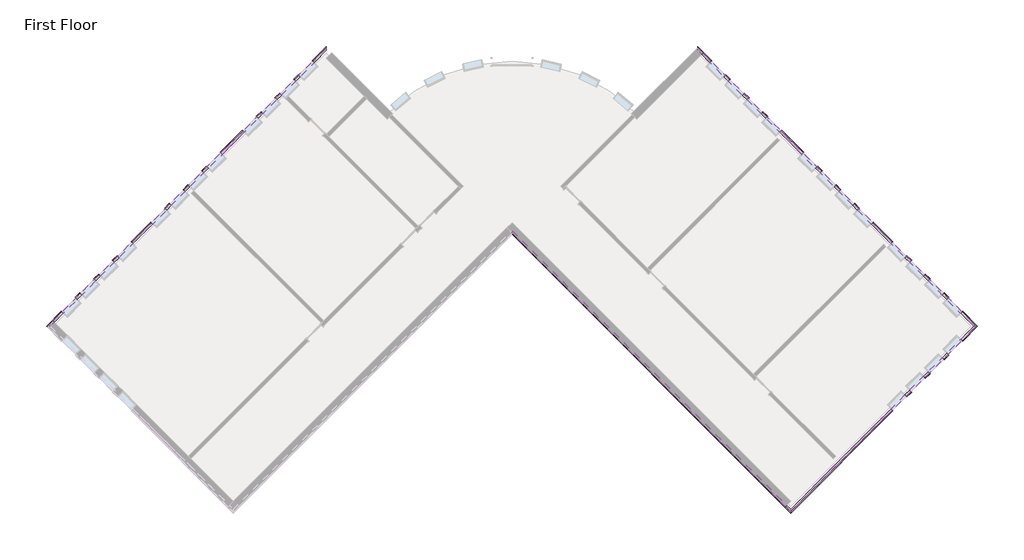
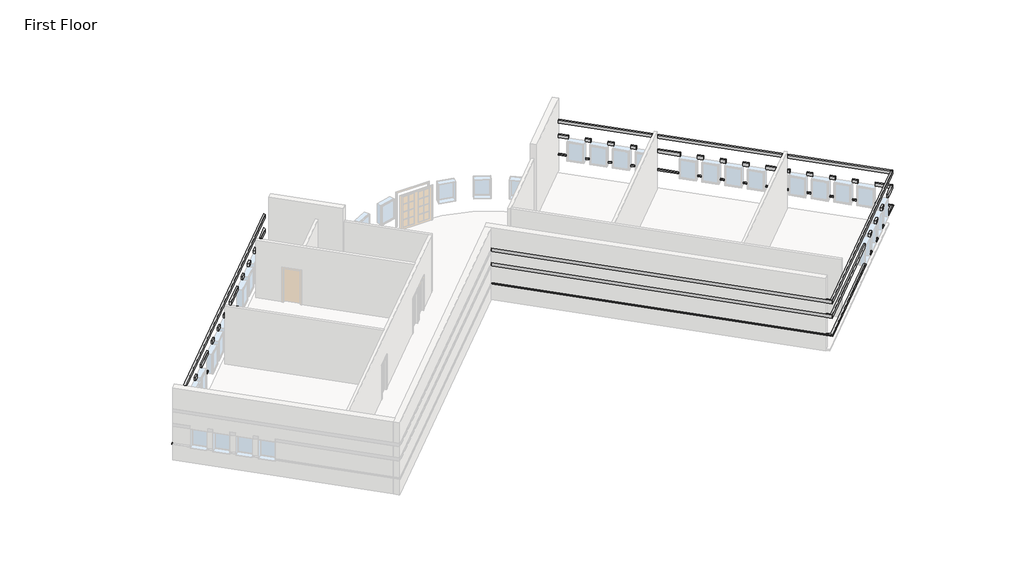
# One storey, part 3 of 3: 12 proxies.
"""IFC4 building model written with IfcOpenShell, lengths in millimetres."""

from ifc_helpers import new_model, si_unit, origin, place, context, project, spatial, faceted_brep, element, save

model = new_model("IFC4")

# Units and contexts
model_context = context("Model", 3, world=origin())
ifc_project = project(units=[si_unit("LENGTHUNIT", "METRE", prefix="MILLI")], contexts=[model_context])

# Site, building, storey
site = spatial("IfcSite", under=ifc_project)
building = spatial("IfcBuilding", under=site)
storey = spatial("IfcBuildingStorey", under=building, Name="First Floor", Elevation=0.0)

# Proxies
placement = place(None, origin())
element("IfcBuildingElementProxy", 1, Name="Wall Sweeps", at=placement, inside=storey, context=model_context, shape_type="Brep", body=[
    faceted_brep([(5753.0175119, 11443.3655905, 1085.85), (5753.0175119, 11573.5793042, 1085.85), (5753.0175119, 11622.9707129, 1041.4), (5753.0175119, 11622.9707129, 1016.0), (5753.0175119, 11443.3655905, 1016.0), (6317.415551, 10878.9675514, 1085.85), (6317.415551, 10878.9675514, 1016.0), (6382.5224079, 10944.0744083, 1016.0), (6407.2181122, 10968.7701126, 1016.0), (6407.2181122, 10968.7701126, 1041.4), (6382.5224079, 10944.0744083, 1085.85), (5937.1127624, 11259.27034, 1085.85), (5937.1127624, 11259.27034, 1016.0)], [[[0, 1, 2, 3, 4]], [[5, 6, 7, 8, 9, 10]], [[1, 0, 11, 5, 10]], [[2, 1, 10, 9]], [[3, 2, 9, 8]], [[4, 3, 8, 7, 6, 12]], [[0, 4, 12, 6, 5, 11]]]),
    faceted_brep([(6963.9939917, 10232.3891107, 1085.85), (7029.1008486, 10297.4959676, 1085.85), (7053.7965529, 10322.1916719, 1041.4), (7053.7965529, 10322.1916719, 1016.0), (7029.1008486, 10297.4959676, 1016.0), (6963.9939917, 10232.3891107, 1016.0), (7179.5201386, 10016.8629638, 1085.85), (7179.5201386, 10016.8629638, 1016.0), (7244.6269955, 10081.9698207, 1016.0), (7269.3226998, 10106.665525, 1016.0), (7269.3226998, 10106.665525, 1041.4), (7244.6269955, 10081.9698207, 1085.85)], [[[0, 1, 2, 3, 4, 5]], [[6, 7, 8, 9, 10, 11]], [[1, 0, 6, 11]], [[2, 1, 11, 10]], [[3, 2, 10, 9]], [[5, 4, 3, 9, 8, 7]], [[0, 5, 7, 6]]]),
    faceted_brep([(7826.0985793, 9370.2845231, 1085.85), (7891.2054362, 9435.39138, 1085.85), (7915.9011405, 9460.0870843, 1041.4), (7915.9011405, 9460.0870843, 1016.0), (7891.2054362, 9435.39138, 1016.0), (7826.0985793, 9370.2845231, 1016.0), (8041.6247262, 9154.7583762, 1085.85), (8041.6247262, 9154.7583762, 1016.0), (8106.7315831, 9219.8652331, 1016.0), (8131.4272874, 9244.5609374, 1016.0), (8131.4272874, 9244.5609374, 1041.4), (8106.7315831, 9219.8652331, 1085.85)], [[[0, 1, 2, 3, 4, 5]], [[6, 7, 8, 9, 10, 11]], [[1, 0, 6, 11]], [[2, 1, 11, 10]], [[3, 2, 10, 9]], [[5, 4, 3, 9, 8, 7]], [[0, 5, 7, 6]]]),
    faceted_brep([(8688.2031669, 8508.1799355, 1085.85), (8753.3100238, 8573.2867923, 1085.85), (8778.0057282, 8597.9824967, 1041.4), (8778.0057282, 8597.9824967, 1016.0), (8753.3100238, 8573.2867923, 1016.0), (8688.2031669, 8508.1799355, 1016.0), (8903.7293139, 8292.6537886, 1085.85), (8903.7293139, 8292.6537886, 1016.0), (8968.8361707, 8357.7606454, 1016.0), (8993.5318751, 8382.4563498, 1016.0), (8993.5318751, 8382.4563498, 1041.4), (8968.8361707, 8357.7606454, 1085.85)], [[[0, 1, 2, 3, 4, 5]], [[6, 7, 8, 9, 10, 11]], [[1, 0, 6, 11]], [[2, 1, 11, 10]], [[3, 2, 10, 9]], [[5, 4, 3, 9, 8, 7]], [[0, 5, 7, 6]]]),
    faceted_brep([(9550.3077546, 7646.0753478, 1085.85), (9615.4146114, 7711.1822047, 1085.85), (9640.1103158, 7735.877909, 1041.4), (9640.1103158, 7735.877909, 1016.0), (9615.4146114, 7711.1822047, 1016.0), (9550.3077546, 7646.0753478, 1016.0), (10574.7639411, 6621.6191613, 1085.85), (10574.7639411, 6621.6191613, 1016.0), (10639.870798, 6686.7260182, 1016.0), (10664.5665023, 6711.4217225, 1016.0), (10664.5665023, 6711.4217225, 1041.4), (10639.870798, 6686.7260182, 1085.85)], [[[0, 1, 2, 3, 4, 5]], [[6, 7, 8, 9, 10, 11]], [[1, 0, 6, 11]], [[2, 1, 11, 10]], [[3, 2, 10, 9]], [[5, 4, 3, 9, 8, 7]], [[0, 5, 7, 6]]]),
    faceted_brep([(11221.3423818, 5975.0407206, 1085.85), (11286.4492387, 6040.1475775, 1085.85), (11311.144943, 6064.8432818, 1041.4), (11311.144943, 6064.8432818, 1016.0), (11286.4492387, 6040.1475775, 1016.0), (11221.3423818, 5975.0407206, 1016.0), (11436.8685287, 5759.5145737, 1085.85), (11436.8685287, 5759.5145737, 1016.0), (11501.9753856, 5824.6214306, 1016.0), (11526.6710899, 5849.3171349, 1016.0), (11526.6710899, 5849.3171349, 1041.4), (11501.9753856, 5824.6214306, 1085.85)], [[[0, 1, 2, 3, 4, 5]], [[6, 7, 8, 9, 10, 11]], [[1, 0, 6, 11]], [[2, 1, 11, 10]], [[3, 2, 10, 9]], [[5, 4, 3, 9, 8, 7]], [[0, 5, 7, 6]]]),
    faceted_brep([(12083.4469694, 5112.936133, 1085.85), (12148.5538263, 5178.0429899, 1085.85), (12173.2495306, 5202.7386942, 1041.4), (12173.2495306, 5202.7386942, 1016.0), (12148.5538263, 5178.0429899, 1016.0), (12083.4469694, 5112.936133, 1016.0), (12298.9731163, 4897.4099861, 1085.85), (12298.9731163, 4897.4099861, 1016.0), (12364.0799732, 4962.516843, 1016.0), (12388.7756775, 4987.2125473, 1016.0), (12388.7756775, 4987.2125473, 1041.4), (12364.0799732, 4962.516843, 1085.85)], [[[0, 1, 2, 3, 4, 5]], [[6, 7, 8, 9, 10, 11]], [[1, 0, 6, 11]], [[2, 1, 11, 10]], [[3, 2, 10, 9]], [[5, 4, 3, 9, 8, 7]], [[0, 5, 7, 6]]]),
    faceted_brep([(12945.551557, 4250.8315454, 1085.85), (13010.6584139, 4315.9384023, 1085.85), (13035.3541182, 4340.6341066, 1041.4), (13035.3541182, 4340.6341066, 1016.0), (13010.6584139, 4315.9384023, 1016.0), (12945.551557, 4250.8315454, 1016.0), (13161.0777039, 4035.3053985, 1085.85), (13161.0777039, 4035.3053985, 1016.0), (13226.1845608, 4100.4122553, 1016.0), (13250.8802652, 4125.1079597, 1016.0), (13250.8802652, 4125.1079597, 1041.4), (13226.1845608, 4100.4122553, 1085.85)], [[[0, 1, 2, 3, 4, 5]], [[6, 7, 8, 9, 10, 11]], [[1, 0, 6, 11]], [[2, 1, 11, 10]], [[3, 2, 10, 9]], [[5, 4, 3, 9, 8, 7]], [[0, 5, 7, 6]]]),
    faceted_brep([(13807.6561447, 3388.7269578, 1085.85), (13872.7630015, 3453.8338146, 1085.85), (13897.4587059, 3478.529519, 1041.4), (13897.4587059, 3478.529519, 1016.0), (13872.7630015, 3453.8338146, 1016.0), (13807.6561447, 3388.7269578, 1016.0), (14723.1708449, 2473.2122576, 1085.85), (14723.1708449, 2473.2122576, 1016.0), (14788.2777017, 2538.3191144, 1016.0), (14812.9734061, 2563.0148188, 1016.0), (14812.9734061, 2563.0148188, 1041.4), (14788.2777017, 2538.3191144, 1085.85)], [[[0, 1, 2, 3, 4, 5]], [[6, 7, 8, 9, 10, 11]], [[1, 0, 6, 11]], [[2, 1, 11, 10]], [[3, 2, 10, 9]], [[5, 4, 3, 9, 8, 7]], [[0, 5, 7, 6]]]),
    faceted_brep([(15369.7492856, 1826.6338168, 1085.85), (15434.8561424, 1891.7406737, 1085.85), (15459.5518468, 1916.4363781, 1041.4), (15459.5518468, 1916.4363781, 1016.0), (15434.8561424, 1891.7406737, 1016.0), (15369.7492856, 1826.6338168, 1016.0), (15585.2754325, 1611.1076699, 1085.85), (15585.2754325, 1611.1076699, 1016.0), (15650.3822894, 1676.2145268, 1016.0), (15675.0779937, 1700.9102311, 1016.0), (15675.0779937, 1700.9102311, 1041.4), (15650.3822894, 1676.2145268, 1085.85)], [[[0, 1, 2, 3, 4, 5]], [[6, 7, 8, 9, 10, 11]], [[1, 0, 6, 11]], [[2, 1, 11, 10]], [[3, 2, 10, 9]], [[5, 4, 3, 9, 8, 7]], [[0, 5, 7, 6]]]),
    faceted_brep([(16231.8538732, 964.5292292, 1085.85), (16296.9607301, 1029.6360861, 1085.85), (16321.6564344, 1054.3317904, 1041.4), (16321.6564344, 1054.3317904, 1016.0), (16296.9607301, 1029.6360861, 1016.0), (16231.8538732, 964.5292292, 1016.0), (16447.3800201, 749.0030823, 1085.85), (16447.3800201, 749.0030823, 1016.0), (16512.486877, 814.1099392, 1016.0), (16537.1825813, 838.8056435, 1016.0), (16537.1825813, 838.8056435, 1041.4), (16512.486877, 814.1099392, 1085.85)], [[[0, 1, 2, 3, 4, 5]], [[6, 7, 8, 9, 10, 11]], [[1, 0, 6, 11]], [[2, 1, 11, 10]], [[3, 2, 10, 9]], [[5, 4, 3, 9, 8, 7]], [[0, 5, 7, 6]]]),
    faceted_brep([(17093.9584608, 102.4246416, 1085.85), (17159.0653177, 167.5314985, 1085.85), (17183.761022, 192.2272028, 1041.4), (17183.761022, 192.2272028, 1016.0), (17159.0653177, 167.5314985, 1016.0), (17093.9584608, 102.4246416, 1016.0), (17309.4846077, -113.1015053, 1085.85), (17309.4846077, -113.1015053, 1016.0), (17374.5914646, -47.9946484, 1016.0), (17399.2871689, -23.2989441, 1016.0), (17399.2871689, -23.2989441, 1041.4), (17374.5914646, -47.9946484, 1085.85)], [[[0, 1, 2, 3, 4, 5]], [[6, 7, 8, 9, 10, 11]], [[1, 0, 6, 11]], [[2, 1, 11, 10]], [[3, 2, 10, 9]], [[5, 4, 3, 9, 8, 7]], [[0, 5, 7, 6]]]),
    faceted_brep([(17956.0630484, -759.679946, 1085.85), (18021.1699053, -694.5730891, 1085.85), (18045.8656096, -669.8773848, 1041.4), (18045.8656096, -669.8773848, 1016.0), (18021.1699053, -694.5730891, 1016.0), (17956.0630484, -759.679946, 1016.0), (18554.3726125, -1357.9895101, 1085.85), (18554.3726125, -1357.9895101, 1016.0), (18733.9777349, -1357.9895101, 1016.0), (18733.9777349, -1357.9895101, 1041.4), (18684.5863263, -1357.9895101, 1085.85)], [[[0, 1, 2, 3, 4, 5]], [[6, 7, 8, 9, 10]], [[1, 0, 6, 10]], [[2, 1, 10, 9]], [[3, 2, 9, 8]], [[5, 4, 3, 8, 7]], [[0, 5, 7, 6]]]),
])
element("IfcBuildingElementProxy", 2, Name="Wall Sweeps", at=placement, inside=storey, context=model_context, shape_type="Brep", body=[
    faceted_brep([(5753.0175119, 11573.5793042, 2336.8), (5753.0175119, 11573.5793042, 2133.6), (5753.0175119, 11443.3655905, 2133.6), (5753.0175119, 11443.3655905, 2336.8), (6382.5224079, 10944.0744083, 2336.8), (6317.415551, 10878.9675514, 2336.8), (6317.415551, 10878.9675514, 2133.6), (6382.5224079, 10944.0744083, 2133.6), (6002.2196193, 11324.3771969, 2336.8), (6002.2196193, 11324.3771969, 2133.6), (5937.1127624, 11259.27034, 2133.6), (5937.1127624, 11259.27034, 2336.8)], [[[0, 1, 2, 3]], [[4, 5, 6, 7]], [[1, 0, 8, 4, 7, 9]], [[2, 1, 9, 7, 6, 10]], [[3, 2, 10, 6, 5, 11]], [[0, 3, 11, 5, 4, 8]]]),
    faceted_brep([(7029.1008486, 10297.4959676, 2336.8), (7029.1008486, 10297.4959676, 2133.6), (6963.9939917, 10232.3891107, 2133.6), (6963.9939917, 10232.3891107, 2336.8), (7244.6269955, 10081.9698207, 2336.8), (7179.5201386, 10016.8629638, 2336.8), (7179.5201386, 10016.8629638, 2133.6), (7244.6269955, 10081.9698207, 2133.6)], [[[0, 1, 2, 3]], [[4, 5, 6, 7]], [[1, 0, 4, 7]], [[2, 1, 7, 6]], [[3, 2, 6, 5]], [[0, 3, 5, 4]]]),
    faceted_brep([(7891.2054362, 9435.39138, 2336.8), (7891.2054362, 9435.39138, 2133.6), (7826.0985793, 9370.2845231, 2133.6), (7826.0985793, 9370.2845231, 2336.8), (8106.7315831, 9219.8652331, 2336.8), (8041.6247262, 9154.7583762, 2336.8), (8041.6247262, 9154.7583762, 2133.6), (8106.7315831, 9219.8652331, 2133.6)], [[[0, 1, 2, 3]], [[4, 5, 6, 7]], [[1, 0, 4, 7]], [[2, 1, 7, 6]], [[3, 2, 6, 5]], [[0, 3, 5, 4]]]),
    faceted_brep([(8753.3100238, 8573.2867923, 2336.8), (8753.3100238, 8573.2867923, 2133.6), (8688.2031669, 8508.1799355, 2133.6), (8688.2031669, 8508.1799355, 2336.8), (8968.8361707, 8357.7606454, 2336.8), (8903.7293139, 8292.6537886, 2336.8), (8903.7293139, 8292.6537886, 2133.6), (8968.8361707, 8357.7606454, 2133.6)], [[[0, 1, 2, 3]], [[4, 5, 6, 7]], [[1, 0, 4, 7]], [[2, 1, 7, 6]], [[3, 2, 6, 5]], [[0, 3, 5, 4]]]),
    faceted_brep([(9615.4146114, 7711.1822047, 2336.8), (9615.4146114, 7711.1822047, 2133.6), (9550.3077546, 7646.0753478, 2133.6), (9550.3077546, 7646.0753478, 2336.8), (10639.870798, 6686.7260182, 2336.8), (10574.7639411, 6621.6191613, 2336.8), (10574.7639411, 6621.6191613, 2133.6), (10639.870798, 6686.7260182, 2133.6)], [[[0, 1, 2, 3]], [[4, 5, 6, 7]], [[1, 0, 4, 7]], [[2, 1, 7, 6]], [[3, 2, 6, 5]], [[0, 3, 5, 4]]]),
    faceted_brep([(11286.4492387, 6040.1475775, 2336.8), (11286.4492387, 6040.1475775, 2133.6), (11221.3423818, 5975.0407206, 2133.6), (11221.3423818, 5975.0407206, 2336.8), (11501.9753856, 5824.6214306, 2336.8), (11436.8685287, 5759.5145737, 2336.8), (11436.8685287, 5759.5145737, 2133.6), (11501.9753856, 5824.6214306, 2133.6)], [[[0, 1, 2, 3]], [[4, 5, 6, 7]], [[1, 0, 4, 7]], [[2, 1, 7, 6]], [[3, 2, 6, 5]], [[0, 3, 5, 4]]]),
    faceted_brep([(12148.5538263, 5178.0429899, 2336.8), (12148.5538263, 5178.0429899, 2133.6), (12083.4469694, 5112.936133, 2133.6), (12083.4469694, 5112.936133, 2336.8), (12364.0799732, 4962.516843, 2336.8), (12298.9731163, 4897.4099861, 2336.8), (12298.9731163, 4897.4099861, 2133.6), (12364.0799732, 4962.516843, 2133.6)], [[[0, 1, 2, 3]], [[4, 5, 6, 7]], [[1, 0, 4, 7]], [[2, 1, 7, 6]], [[3, 2, 6, 5]], [[0, 3, 5, 4]]]),
    faceted_brep([(13010.6584139, 4315.9384023, 2336.8), (13010.6584139, 4315.9384023, 2133.6), (12945.551557, 4250.8315454, 2133.6), (12945.551557, 4250.8315454, 2336.8), (13226.1845608, 4100.4122553, 2336.8), (13161.0777039, 4035.3053985, 2336.8), (13161.0777039, 4035.3053985, 2133.6), (13226.1845608, 4100.4122553, 2133.6)], [[[0, 1, 2, 3]], [[4, 5, 6, 7]], [[1, 0, 4, 7]], [[2, 1, 7, 6]], [[3, 2, 6, 5]], [[0, 3, 5, 4]]]),
    faceted_brep([(13872.7630015, 3453.8338146, 2336.8), (13872.7630015, 3453.8338146, 2133.6), (13807.6561447, 3388.7269578, 2133.6), (13807.6561447, 3388.7269578, 2336.8), (14788.2777017, 2538.3191144, 2336.8), (14723.1708449, 2473.2122576, 2336.8), (14723.1708449, 2473.2122576, 2133.6), (14788.2777017, 2538.3191144, 2133.6)], [[[0, 1, 2, 3]], [[4, 5, 6, 7]], [[1, 0, 4, 7]], [[2, 1, 7, 6]], [[3, 2, 6, 5]], [[0, 3, 5, 4]]]),
    faceted_brep([(15434.8561424, 1891.7406737, 2336.8), (15434.8561424, 1891.7406737, 2133.6), (15369.7492856, 1826.6338168, 2133.6), (15369.7492856, 1826.6338168, 2336.8), (15650.3822894, 1676.2145268, 2336.8), (15585.2754325, 1611.1076699, 2336.8), (15585.2754325, 1611.1076699, 2133.6), (15650.3822894, 1676.2145268, 2133.6)], [[[0, 1, 2, 3]], [[4, 5, 6, 7]], [[1, 0, 4, 7]], [[2, 1, 7, 6]], [[3, 2, 6, 5]], [[0, 3, 5, 4]]]),
    faceted_brep([(16296.9607301, 1029.6360861, 2336.8), (16296.9607301, 1029.6360861, 2133.6), (16231.8538732, 964.5292292, 2133.6), (16231.8538732, 964.5292292, 2336.8), (16512.486877, 814.1099392, 2336.8), (16447.3800201, 749.0030823, 2336.8), (16447.3800201, 749.0030823, 2133.6), (16512.486877, 814.1099392, 2133.6)], [[[0, 1, 2, 3]], [[4, 5, 6, 7]], [[1, 0, 4, 7]], [[2, 1, 7, 6]], [[3, 2, 6, 5]], [[0, 3, 5, 4]]]),
    faceted_brep([(17159.0653177, 167.5314985, 2336.8), (17159.0653177, 167.5314985, 2133.6), (17093.9584608, 102.4246416, 2133.6), (17093.9584608, 102.4246416, 2336.8), (17374.5914646, -47.9946484, 2336.8), (17309.4846077, -113.1015053, 2336.8), (17309.4846077, -113.1015053, 2133.6), (17374.5914646, -47.9946484, 2133.6)], [[[0, 1, 2, 3]], [[4, 5, 6, 7]], [[1, 0, 4, 7]], [[2, 1, 7, 6]], [[3, 2, 6, 5]], [[0, 3, 5, 4]]]),
    faceted_brep([(18021.1699053, -694.5730891, 2336.8), (18021.1699053, -694.5730891, 2133.6), (17956.0630484, -759.679946, 2133.6), (17956.0630484, -759.679946, 2336.8), (18684.5863263, -1357.9895101, 2336.8), (18554.3726125, -1357.9895101, 2336.8), (18554.3726125, -1357.9895101, 2133.6), (18684.5863263, -1357.9895101, 2133.6)], [[[0, 1, 2, 3]], [[4, 5, 6, 7]], [[1, 0, 4, 7]], [[2, 1, 7, 6]], [[3, 2, 6, 5]], [[0, 3, 5, 4]]]),
])
element("IfcBuildingElementProxy", 3, Name="Wall Sweeps", at=placement, inside=storey, context=model_context, shape_type="Brep", body=[
    faceted_brep([(5753.0175119, 11573.5793042, 3251.2), (5753.0175119, 11573.5793042, 3048.0), (5753.0175119, 11443.3655905, 3048.0), (5753.0175119, 11443.3655905, 3251.2), (18684.5863263, -1357.9895101, 3251.2), (18554.3726125, -1357.9895101, 3251.2), (18554.3726125, -1357.9895101, 3048.0), (18684.5863263, -1357.9895101, 3048.0), (6002.2196193, 11324.3771969, 3251.2), (6002.2196193, 11324.3771969, 3048.0), (5937.1127624, 11259.27034, 3048.0), (5937.1127624, 11259.27034, 3251.2)], [[[0, 1, 2, 3]], [[4, 5, 6, 7]], [[1, 0, 8, 4, 7, 9]], [[2, 1, 9, 7, 6, 10]], [[3, 2, 10, 6, 5, 11]], [[0, 3, 11, 5, 4, 8]]]),
])
element("IfcBuildingElementProxy", 4, Name="Wall Sweeps", at=placement, inside=storey, context=model_context, shape_type="Brep", body=[
    faceted_brep([(18554.3726125, -1357.9895101, 1085.85), (18684.5863263, -1357.9895101, 1085.85), (18733.9777349, -1357.9895101, 1041.4), (18733.9777349, -1357.9895101, 1016.0), (18554.3726125, -1357.9895101, 1016.0), (17956.0630484, -1956.2990742, 1085.85), (17956.0630484, -1956.2990742, 1016.0), (18021.1699053, -2021.405931, 1016.0), (18045.8656096, -2046.1016354, 1016.0), (18045.8656096, -2046.1016354, 1041.4), (18021.1699053, -2021.405931, 1085.85), (18370.277362, -1542.0847606, 1085.85), (18370.277362, -1542.0847606, 1016.0)], [[[0, 1, 2, 3, 4]], [[5, 6, 7, 8, 9, 10]], [[1, 0, 11, 5, 10]], [[2, 1, 10, 9]], [[3, 2, 9, 8]], [[4, 3, 8, 7, 6, 12]], [[0, 4, 12, 6, 5, 11]]]),
    faceted_brep([(17309.4846077, -2602.8775149, 1085.85), (17374.5914646, -2667.9843718, 1085.85), (17399.2871689, -2692.6800761, 1041.4), (17399.2871689, -2692.6800761, 1016.0), (17374.5914646, -2667.9843718, 1016.0), (17309.4846077, -2602.8775149, 1016.0), (17093.9584608, -2818.4036618, 1085.85), (17093.9584608, -2818.4036618, 1016.0), (17159.0653177, -2883.5105187, 1016.0), (17183.761022, -2908.206223, 1016.0), (17183.761022, -2908.206223, 1041.4), (17159.0653177, -2883.5105187, 1085.85)], [[[0, 1, 2, 3, 4, 5]], [[6, 7, 8, 9, 10, 11]], [[1, 0, 6, 11]], [[2, 1, 11, 10]], [[3, 2, 10, 9]], [[5, 4, 3, 9, 8, 7]], [[0, 5, 7, 6]]]),
    faceted_brep([(16447.3800201, -3464.9821025, 1085.85), (16512.486877, -3530.0889594, 1085.85), (16537.1825813, -3554.7846637, 1041.4), (16537.1825813, -3554.7846637, 1016.0), (16512.486877, -3530.0889594, 1016.0), (16447.3800201, -3464.9821025, 1016.0), (16231.8538732, -3680.5082494, 1085.85), (16231.8538732, -3680.5082494, 1016.0), (16296.9607301, -3745.6151063, 1016.0), (16321.6564344, -3770.3108106, 1016.0), (16321.6564344, -3770.3108106, 1041.4), (16296.9607301, -3745.6151063, 1085.85)], [[[0, 1, 2, 3, 4, 5]], [[6, 7, 8, 9, 10, 11]], [[1, 0, 6, 11]], [[2, 1, 11, 10]], [[3, 2, 10, 9]], [[5, 4, 3, 9, 8, 7]], [[0, 5, 7, 6]]]),
    faceted_brep([(15585.2754325, -4327.0866901, 1085.85), (15650.3822894, -4392.193547, 1085.85), (15675.0779937, -4416.8892513, 1041.4), (15675.0779937, -4416.8892513, 1016.0), (15650.3822894, -4392.193547, 1016.0), (15585.2754325, -4327.0866901, 1016.0), (15369.7492856, -4542.612837, 1085.85), (15369.7492856, -4542.612837, 1016.0), (15434.8561424, -4607.7196939, 1016.0), (15459.5518468, -4632.4153982, 1016.0), (15459.5518468, -4632.4153982, 1041.4), (15434.8561424, -4607.7196939, 1085.85)], [[[0, 1, 2, 3, 4, 5]], [[6, 7, 8, 9, 10, 11]], [[1, 0, 6, 11]], [[2, 1, 11, 10]], [[3, 2, 10, 9]], [[5, 4, 3, 9, 8, 7]], [[0, 5, 7, 6]]]),
    faceted_brep([(14723.1708449, -5189.1912777, 1085.85), (14788.2777017, -5254.2981346, 1085.85), (14812.9734061, -5278.993839, 1041.4), (14812.9734061, -5278.993839, 1016.0), (14788.2777017, -5254.2981346, 1016.0), (14723.1708449, -5189.1912777, 1016.0), (10063.54045, -9848.8216726, 1085.85), (10063.54045, -9848.8216726, 1016.0), (10063.54045, -10028.426795, 1016.0), (10063.54045, -10028.426795, 1041.4), (10063.54045, -9979.0353863, 1085.85)], [[[0, 1, 2, 3, 4, 5]], [[6, 7, 8, 9, 10]], [[1, 0, 6, 10]], [[2, 1, 10, 9]], [[3, 2, 9, 8]], [[5, 4, 3, 8, 7]], [[0, 5, 7, 6]]]),
])
element("IfcBuildingElementProxy", 5, Name="Wall Sweeps", at=placement, inside=storey, context=model_context, shape_type="Brep", body=[
    faceted_brep([(18684.5863263, -1357.9895101, 2336.8), (18684.5863263, -1357.9895101, 2133.6), (18554.3726125, -1357.9895101, 2133.6), (18554.3726125, -1357.9895101, 2336.8), (18021.1699053, -2021.405931, 2336.8), (17956.0630484, -1956.2990742, 2336.8), (17956.0630484, -1956.2990742, 2133.6), (18021.1699053, -2021.405931, 2133.6), (18435.3842189, -1607.1916175, 2336.8), (18435.3842189, -1607.1916175, 2133.6), (18370.277362, -1542.0847606, 2133.6), (18370.277362, -1542.0847606, 2336.8)], [[[0, 1, 2, 3]], [[4, 5, 6, 7]], [[1, 0, 8, 4, 7, 9]], [[2, 1, 9, 7, 6, 10]], [[3, 2, 10, 6, 5, 11]], [[0, 3, 11, 5, 4, 8]]]),
    faceted_brep([(17374.5914646, -2667.9843718, 2336.8), (17374.5914646, -2667.9843718, 2133.6), (17309.4846077, -2602.8775149, 2133.6), (17309.4846077, -2602.8775149, 2336.8), (17159.0653177, -2883.5105187, 2336.8), (17093.9584608, -2818.4036618, 2336.8), (17093.9584608, -2818.4036618, 2133.6), (17159.0653177, -2883.5105187, 2133.6)], [[[0, 1, 2, 3]], [[4, 5, 6, 7]], [[1, 0, 4, 7]], [[2, 1, 7, 6]], [[3, 2, 6, 5]], [[0, 3, 5, 4]]]),
    faceted_brep([(16512.486877, -3530.0889594, 2336.8), (16512.486877, -3530.0889594, 2133.6), (16447.3800201, -3464.9821025, 2133.6), (16447.3800201, -3464.9821025, 2336.8), (16296.9607301, -3745.6151063, 2336.8), (16231.8538732, -3680.5082494, 2336.8), (16231.8538732, -3680.5082494, 2133.6), (16296.9607301, -3745.6151063, 2133.6)], [[[0, 1, 2, 3]], [[4, 5, 6, 7]], [[1, 0, 4, 7]], [[2, 1, 7, 6]], [[3, 2, 6, 5]], [[0, 3, 5, 4]]]),
    faceted_brep([(15650.3822894, -4392.193547, 2336.8), (15650.3822894, -4392.193547, 2133.6), (15585.2754325, -4327.0866901, 2133.6), (15585.2754325, -4327.0866901, 2336.8), (15434.8561424, -4607.7196939, 2336.8), (15369.7492856, -4542.612837, 2336.8), (15369.7492856, -4542.612837, 2133.6), (15434.8561424, -4607.7196939, 2133.6)], [[[0, 1, 2, 3]], [[4, 5, 6, 7]], [[1, 0, 4, 7]], [[2, 1, 7, 6]], [[3, 2, 6, 5]], [[0, 3, 5, 4]]]),
    faceted_brep([(14788.2777017, -5254.2981346, 2336.8), (14788.2777017, -5254.2981346, 2133.6), (14723.1708449, -5189.1912777, 2133.6), (14723.1708449, -5189.1912777, 2336.8), (10063.54045, -9979.0353863, 2336.8), (10063.54045, -9848.8216726, 2336.8), (10063.54045, -9848.8216726, 2133.6), (10063.54045, -9979.0353863, 2133.6)], [[[0, 1, 2, 3]], [[4, 5, 6, 7]], [[1, 0, 4, 7]], [[2, 1, 7, 6]], [[3, 2, 6, 5]], [[0, 3, 5, 4]]]),
])
element("IfcBuildingElementProxy", 6, Name="Wall Sweeps", at=placement, inside=storey, context=model_context, shape_type="Brep", body=[
    faceted_brep([(18684.5863263, -1357.9895101, 3251.2), (18684.5863263, -1357.9895101, 3048.0), (18554.3726125, -1357.9895101, 3048.0), (18554.3726125, -1357.9895101, 3251.2), (10063.54045, -9979.0353863, 3251.2), (10063.54045, -9848.8216726, 3251.2), (10063.54045, -9848.8216726, 3048.0), (10063.54045, -9979.0353863, 3048.0), (18435.3842189, -1607.1916175, 3251.2), (18435.3842189, -1607.1916175, 3048.0), (18370.277362, -1542.0847606, 3048.0), (18370.277362, -1542.0847606, 3251.2)], [[[0, 1, 2, 3]], [[4, 5, 6, 7]], [[1, 0, 8, 4, 7, 9]], [[2, 1, 9, 7, 6, 10]], [[3, 2, 10, 6, 5, 11]], [[0, 3, 11, 5, 4, 8]]]),
])
element("IfcBuildingElementProxy", 7, Name="Wall Sweeps", at=placement, inside=storey, context=model_context, shape_type="Brep", body=[
    faceted_brep([(10063.54045, -9848.8216726, 1085.85), (10063.54045, -9979.0353863, 1085.85), (10063.54045, -10028.426795, 1041.4), (10063.54045, -10028.426795, 1016.0), (10063.54045, -9848.8216726, 1016.0), (-2868.0283643, 3082.7471418, 1085.85), (-2868.0283643, 3082.7471418, 1016.0), (-2868.0283643, 2903.1420194, 1016.0), (-2868.0283643, 2903.1420194, 1041.4), (-2868.0283643, 2952.533428, 1085.85), (9879.4451996, -9664.7264221, 1085.85), (9879.4451996, -9664.7264221, 1016.0)], [[[0, 1, 2, 3, 4]], [[5, 6, 7, 8, 9]], [[1, 0, 10, 5, 9]], [[2, 1, 9, 8]], [[3, 2, 8, 7]], [[4, 3, 7, 6, 11]], [[0, 4, 11, 6, 5, 10]]]),
])
element("IfcBuildingElementProxy", 8, Name="Wall Sweeps", at=placement, inside=storey, context=model_context, shape_type="Brep", body=[
    faceted_brep([(10063.54045, -9979.0353863, 2336.8), (10063.54045, -9979.0353863, 2133.6), (10063.54045, -9848.8216726, 2133.6), (10063.54045, -9848.8216726, 2336.8), (-2868.0283643, 2952.533428, 2336.8), (-2868.0283643, 3082.7471418, 2336.8), (-2868.0283643, 3082.7471418, 2133.6), (-2868.0283643, 2952.533428, 2133.6), (9814.3383427, -9729.833279, 2336.8), (9814.3383427, -9729.833279, 2133.6), (9879.4451996, -9664.7264221, 2133.6), (9879.4451996, -9664.7264221, 2336.8)], [[[0, 1, 2, 3]], [[4, 5, 6, 7]], [[1, 0, 8, 4, 7, 9]], [[2, 1, 9, 7, 6, 10]], [[3, 2, 10, 6, 5, 11]], [[0, 3, 11, 5, 4, 8]]]),
])
element("IfcBuildingElementProxy", 9, Name="Wall Sweeps", at=placement, inside=storey, context=model_context, shape_type="Brep", body=[
    faceted_brep([(10063.54045, -9979.0353863, 3251.2), (10063.54045, -9979.0353863, 3048.0), (10063.54045, -9848.8216726, 3048.0), (10063.54045, -9848.8216726, 3251.2), (-2868.0283643, 2952.533428, 3251.2), (-2868.0283643, 3082.7471418, 3251.2), (-2868.0283643, 3082.7471418, 3048.0), (-2868.0283643, 2952.533428, 3048.0), (9814.3383427, -9729.833279, 3251.2), (9814.3383427, -9729.833279, 3048.0), (9879.4451996, -9664.7264221, 3048.0), (9879.4451996, -9664.7264221, 3251.2)], [[[0, 1, 2, 3]], [[4, 5, 6, 7]], [[1, 0, 8, 4, 7, 9]], [[2, 1, 9, 7, 6, 10]], [[3, 2, 10, 6, 5, 11]], [[0, 3, 11, 5, 4, 8]]]),
])
element("IfcBuildingElementProxy", 10, Name="Wall Sweeps", at=placement, inside=storey, context=model_context, shape_type="Brep", body=[
    faceted_brep([(-24290.4293411, -1357.9895101, 1085.85), (-24420.6430549, -1357.9895101, 1085.85), (-24470.0344635, -1357.9895101, 1041.4), (-24470.0344635, -1357.9895101, 1016.0), (-24290.4293411, -1357.9895101, 1016.0), (-23692.119777, -759.679946, 1085.85), (-23692.119777, -759.679946, 1016.0), (-23757.2266339, -694.5730891, 1016.0), (-23781.9223383, -669.8773848, 1016.0), (-23781.9223383, -669.8773848, 1041.4), (-23757.2266339, -694.5730891, 1085.85), (-24106.3340906, -1173.8942596, 1085.85), (-24106.3340906, -1173.8942596, 1016.0)], [[[0, 1, 2, 3, 4]], [[5, 6, 7, 8, 9, 10]], [[1, 0, 11, 5, 10]], [[2, 1, 10, 9]], [[3, 2, 9, 8]], [[4, 3, 8, 7, 6, 12]], [[0, 4, 12, 6, 5, 11]]]),
    faceted_brep([(-23045.5413363, -113.1015053, 1085.85), (-23110.6481932, -47.9946484, 1085.85), (-23135.3438975, -23.2989441, 1041.4), (-23135.3438975, -23.2989441, 1016.0), (-23110.6481932, -47.9946484, 1016.0), (-23045.5413363, -113.1015053, 1016.0), (-22830.0151894, 102.4246416, 1085.85), (-22830.0151894, 102.4246416, 1016.0), (-22895.1220463, 167.5314985, 1016.0), (-22919.8177506, 192.2272028, 1016.0), (-22919.8177506, 192.2272028, 1041.4), (-22895.1220463, 167.5314985, 1085.85)], [[[0, 1, 2, 3, 4, 5]], [[6, 7, 8, 9, 10, 11]], [[1, 0, 6, 11]], [[2, 1, 11, 10]], [[3, 2, 10, 9]], [[5, 4, 3, 9, 8, 7]], [[0, 5, 7, 6]]]),
    faceted_brep([(-22183.4367487, 749.0030823, 1085.85), (-22248.5436056, 814.1099392, 1085.85), (-22273.2393099, 838.8056435, 1041.4), (-22273.2393099, 838.8056435, 1016.0), (-22248.5436056, 814.1099392, 1016.0), (-22183.4367487, 749.0030823, 1016.0), (-21967.9106018, 964.5292292, 1085.85), (-21967.9106018, 964.5292292, 1016.0), (-22033.0174587, 1029.6360861, 1016.0), (-22057.713163, 1054.3317904, 1016.0), (-22057.713163, 1054.3317904, 1041.4), (-22033.0174587, 1029.6360861, 1085.85)], [[[0, 1, 2, 3, 4, 5]], [[6, 7, 8, 9, 10, 11]], [[1, 0, 6, 11]], [[2, 1, 11, 10]], [[3, 2, 10, 9]], [[5, 4, 3, 9, 8, 7]], [[0, 5, 7, 6]]]),
    faceted_brep([(-21321.3321611, 1611.1076699, 1085.85), (-21386.439018, 1676.2145268, 1085.85), (-21411.1347223, 1700.9102311, 1041.4), (-21411.1347223, 1700.9102311, 1016.0), (-21386.439018, 1676.2145268, 1016.0), (-21321.3321611, 1611.1076699, 1016.0), (-21105.8060142, 1826.6338168, 1085.85), (-21105.8060142, 1826.6338168, 1016.0), (-21170.9128711, 1891.7406737, 1016.0), (-21195.6085754, 1916.4363781, 1016.0), (-21195.6085754, 1916.4363781, 1041.4), (-21170.9128711, 1891.7406737, 1085.85)], [[[0, 1, 2, 3, 4, 5]], [[6, 7, 8, 9, 10, 11]], [[1, 0, 6, 11]], [[2, 1, 11, 10]], [[3, 2, 10, 9]], [[5, 4, 3, 9, 8, 7]], [[0, 5, 7, 6]]]),
    faceted_brep([(-20459.2275735, 2473.2122576, 1085.85), (-20524.3344303, 2538.3191144, 1085.85), (-20549.0301347, 2563.0148188, 1041.4), (-20549.0301347, 2563.0148188, 1016.0), (-20524.3344303, 2538.3191144, 1016.0), (-20459.2275735, 2473.2122576, 1016.0), (-19543.7128733, 3388.7269578, 1085.85), (-19543.7128733, 3388.7269578, 1016.0), (-19608.8197301, 3453.8338146, 1016.0), (-19633.5154345, 3478.529519, 1016.0), (-19633.5154345, 3478.529519, 1041.4), (-19608.8197301, 3453.8338146, 1085.85)], [[[0, 1, 2, 3, 4, 5]], [[6, 7, 8, 9, 10, 11]], [[1, 0, 6, 11]], [[2, 1, 11, 10]], [[3, 2, 10, 9]], [[5, 4, 3, 9, 8, 7]], [[0, 5, 7, 6]]]),
    faceted_brep([(-18897.1344326, 4035.3053985, 1085.85), (-18962.2412894, 4100.4122553, 1085.85), (-18986.9369938, 4125.1079597, 1041.4), (-18986.9369938, 4125.1079597, 1016.0), (-18962.2412894, 4100.4122553, 1016.0), (-18897.1344326, 4035.3053985, 1016.0), (-18681.6082856, 4250.8315454, 1085.85), (-18681.6082856, 4250.8315454, 1016.0), (-18746.7151425, 4315.9384023, 1016.0), (-18771.4108469, 4340.6341066, 1016.0), (-18771.4108469, 4340.6341066, 1041.4), (-18746.7151425, 4315.9384023, 1085.85)], [[[0, 1, 2, 3, 4, 5]], [[6, 7, 8, 9, 10, 11]], [[1, 0, 6, 11]], [[2, 1, 11, 10]], [[3, 2, 10, 9]], [[5, 4, 3, 9, 8, 7]], [[0, 5, 7, 6]]]),
    faceted_brep([(-18035.0298449, 4897.4099861, 1085.85), (-18100.1367018, 4962.516843, 1085.85), (-18124.8324061, 4987.2125473, 1041.4), (-18124.8324061, 4987.2125473, 1016.0), (-18100.1367018, 4962.516843, 1016.0), (-18035.0298449, 4897.4099861, 1016.0), (-17819.503698, 5112.936133, 1085.85), (-17819.503698, 5112.936133, 1016.0), (-17884.6105549, 5178.0429899, 1016.0), (-17909.3062592, 5202.7386942, 1016.0), (-17909.3062592, 5202.7386942, 1041.4), (-17884.6105549, 5178.0429899, 1085.85)], [[[0, 1, 2, 3, 4, 5]], [[6, 7, 8, 9, 10, 11]], [[1, 0, 6, 11]], [[2, 1, 11, 10]], [[3, 2, 10, 9]], [[5, 4, 3, 9, 8, 7]], [[0, 5, 7, 6]]]),
    faceted_brep([(-17172.9252573, 5759.5145737, 1085.85), (-17238.0321142, 5824.6214306, 1085.85), (-17262.7278185, 5849.3171349, 1041.4), (-17262.7278185, 5849.3171349, 1016.0), (-17238.0321142, 5824.6214306, 1016.0), (-17172.9252573, 5759.5145737, 1016.0), (-16957.3991104, 5975.0407206, 1085.85), (-16957.3991104, 5975.0407206, 1016.0), (-17022.5059673, 6040.1475775, 1016.0), (-17047.2016716, 6064.8432818, 1016.0), (-17047.2016716, 6064.8432818, 1041.4), (-17022.5059673, 6040.1475775, 1085.85)], [[[0, 1, 2, 3, 4, 5]], [[6, 7, 8, 9, 10, 11]], [[1, 0, 6, 11]], [[2, 1, 11, 10]], [[3, 2, 10, 9]], [[5, 4, 3, 9, 8, 7]], [[0, 5, 7, 6]]]),
    faceted_brep([(-16310.8206697, 6621.6191613, 1085.85), (-16375.9275266, 6686.7260182, 1085.85), (-16400.6232309, 6711.4217225, 1041.4), (-16400.6232309, 6711.4217225, 1016.0), (-16375.9275266, 6686.7260182, 1016.0), (-16310.8206697, 6621.6191613, 1016.0), (-15286.3644832, 7646.0753478, 1085.85), (-15286.3644832, 7646.0753478, 1016.0), (-15351.4713401, 7711.1822047, 1016.0), (-15376.1670444, 7735.877909, 1016.0), (-15376.1670444, 7735.877909, 1041.4), (-15351.4713401, 7711.1822047, 1085.85)], [[[0, 1, 2, 3, 4, 5]], [[6, 7, 8, 9, 10, 11]], [[1, 0, 6, 11]], [[2, 1, 11, 10]], [[3, 2, 10, 9]], [[5, 4, 3, 9, 8, 7]], [[0, 5, 7, 6]]]),
    faceted_brep([(-14639.7860425, 8292.6537886, 1085.85), (-14704.8928993, 8357.7606454, 1085.85), (-14729.5886037, 8382.4563498, 1041.4), (-14729.5886037, 8382.4563498, 1016.0), (-14704.8928993, 8357.7606454, 1016.0), (-14639.7860425, 8292.6537886, 1016.0), (-14424.2598956, 8508.1799355, 1085.85), (-14424.2598956, 8508.1799355, 1016.0), (-14489.3667524, 8573.2867923, 1016.0), (-14514.0624568, 8597.9824967, 1016.0), (-14514.0624568, 8597.9824967, 1041.4), (-14489.3667524, 8573.2867923, 1085.85)], [[[0, 1, 2, 3, 4, 5]], [[6, 7, 8, 9, 10, 11]], [[1, 0, 6, 11]], [[2, 1, 11, 10]], [[3, 2, 10, 9]], [[5, 4, 3, 9, 8, 7]], [[0, 5, 7, 6]]]),
    faceted_brep([(-13777.6814548, 9154.7583762, 1085.85), (-13842.7883117, 9219.8652331, 1085.85), (-13867.4840161, 9244.5609374, 1041.4), (-13867.4840161, 9244.5609374, 1016.0), (-13842.7883117, 9219.8652331, 1016.0), (-13777.6814548, 9154.7583762, 1016.0), (-13562.1553079, 9370.2845231, 1085.85), (-13562.1553079, 9370.2845231, 1016.0), (-13627.2621648, 9435.39138, 1016.0), (-13651.9578691, 9460.0870843, 1016.0), (-13651.9578691, 9460.0870843, 1041.4), (-13627.2621648, 9435.39138, 1085.85)], [[[0, 1, 2, 3, 4, 5]], [[6, 7, 8, 9, 10, 11]], [[1, 0, 6, 11]], [[2, 1, 11, 10]], [[3, 2, 10, 9]], [[5, 4, 3, 9, 8, 7]], [[0, 5, 7, 6]]]),
    faceted_brep([(-12915.5768672, 10016.8629638, 1085.85), (-12980.6837241, 10081.9698207, 1085.85), (-13005.3794284, 10106.665525, 1041.4), (-13005.3794284, 10106.665525, 1016.0), (-12980.6837241, 10081.9698207, 1016.0), (-12915.5768672, 10016.8629638, 1016.0), (-12700.0507203, 10232.3891107, 1085.85), (-12700.0507203, 10232.3891107, 1016.0), (-12765.1575772, 10297.4959676, 1016.0), (-12789.8532815, 10322.1916719, 1016.0), (-12789.8532815, 10322.1916719, 1041.4), (-12765.1575772, 10297.4959676, 1085.85)], [[[0, 1, 2, 3, 4, 5]], [[6, 7, 8, 9, 10, 11]], [[1, 0, 6, 11]], [[2, 1, 11, 10]], [[3, 2, 10, 9]], [[5, 4, 3, 9, 8, 7]], [[0, 5, 7, 6]]]),
    faceted_brep([(-12053.4722796, 10878.9675514, 1085.85), (-12118.5791365, 10944.0744083, 1085.85), (-12143.2748408, 10968.7701126, 1041.4), (-12143.2748408, 10968.7701126, 1016.0), (-12118.5791365, 10944.0744083, 1016.0), (-12053.4722796, 10878.9675514, 1016.0), (-11489.0742405, 11443.3655905, 1085.85), (-11489.0742405, 11443.3655905, 1016.0), (-11489.0742405, 11622.9707129, 1016.0), (-11489.0742405, 11622.9707129, 1041.4), (-11489.0742405, 11573.5793042, 1085.85)], [[[0, 1, 2, 3, 4, 5]], [[6, 7, 8, 9, 10]], [[1, 0, 6, 10]], [[2, 1, 10, 9]], [[3, 2, 9, 8]], [[5, 4, 3, 8, 7]], [[0, 5, 7, 6]]]),
])
element("IfcBuildingElementProxy", 11, Name="Wall Sweeps", at=placement, inside=storey, context=model_context, shape_type="Brep", body=[
    faceted_brep([(-24420.6430549, -1357.9895101, 2336.8), (-24420.6430549, -1357.9895101, 2133.6), (-24290.4293411, -1357.9895101, 2133.6), (-24290.4293411, -1357.9895101, 2336.8), (-23757.2266339, -694.5730891, 2336.8), (-23692.119777, -759.679946, 2336.8), (-23692.119777, -759.679946, 2133.6), (-23757.2266339, -694.5730891, 2133.6), (-24171.4409475, -1108.7874027, 2336.8), (-24171.4409475, -1108.7874027, 2133.6), (-24106.3340906, -1173.8942596, 2133.6), (-24106.3340906, -1173.8942596, 2336.8)], [[[0, 1, 2, 3]], [[4, 5, 6, 7]], [[1, 0, 8, 4, 7, 9]], [[2, 1, 9, 7, 6, 10]], [[3, 2, 10, 6, 5, 11]], [[0, 3, 11, 5, 4, 8]]]),
    faceted_brep([(-23110.6481932, -47.9946484, 2336.8), (-23110.6481932, -47.9946484, 2133.6), (-23045.5413363, -113.1015053, 2133.6), (-23045.5413363, -113.1015053, 2336.8), (-22895.1220463, 167.5314985, 2336.8), (-22830.0151894, 102.4246416, 2336.8), (-22830.0151894, 102.4246416, 2133.6), (-22895.1220463, 167.5314985, 2133.6)], [[[0, 1, 2, 3]], [[4, 5, 6, 7]], [[1, 0, 4, 7]], [[2, 1, 7, 6]], [[3, 2, 6, 5]], [[0, 3, 5, 4]]]),
    faceted_brep([(-22248.5436056, 814.1099392, 2336.8), (-22248.5436056, 814.1099392, 2133.6), (-22183.4367487, 749.0030823, 2133.6), (-22183.4367487, 749.0030823, 2336.8), (-22033.0174587, 1029.6360861, 2336.8), (-21967.9106018, 964.5292292, 2336.8), (-21967.9106018, 964.5292292, 2133.6), (-22033.0174587, 1029.6360861, 2133.6)], [[[0, 1, 2, 3]], [[4, 5, 6, 7]], [[1, 0, 4, 7]], [[2, 1, 7, 6]], [[3, 2, 6, 5]], [[0, 3, 5, 4]]]),
    faceted_brep([(-21386.439018, 1676.2145268, 2336.8), (-21386.439018, 1676.2145268, 2133.6), (-21321.3321611, 1611.1076699, 2133.6), (-21321.3321611, 1611.1076699, 2336.8), (-21170.9128711, 1891.7406737, 2336.8), (-21105.8060142, 1826.6338168, 2336.8), (-21105.8060142, 1826.6338168, 2133.6), (-21170.9128711, 1891.7406737, 2133.6)], [[[0, 1, 2, 3]], [[4, 5, 6, 7]], [[1, 0, 4, 7]], [[2, 1, 7, 6]], [[3, 2, 6, 5]], [[0, 3, 5, 4]]]),
    faceted_brep([(-20524.3344303, 2538.3191144, 2336.8), (-20524.3344303, 2538.3191144, 2133.6), (-20459.2275735, 2473.2122576, 2133.6), (-20459.2275735, 2473.2122576, 2336.8), (-19608.8197301, 3453.8338146, 2336.8), (-19543.7128733, 3388.7269578, 2336.8), (-19543.7128733, 3388.7269578, 2133.6), (-19608.8197301, 3453.8338146, 2133.6)], [[[0, 1, 2, 3]], [[4, 5, 6, 7]], [[1, 0, 4, 7]], [[2, 1, 7, 6]], [[3, 2, 6, 5]], [[0, 3, 5, 4]]]),
    faceted_brep([(-18962.2412894, 4100.4122553, 2336.8), (-18962.2412894, 4100.4122553, 2133.6), (-18897.1344326, 4035.3053985, 2133.6), (-18897.1344326, 4035.3053985, 2336.8), (-18746.7151425, 4315.9384023, 2336.8), (-18681.6082856, 4250.8315454, 2336.8), (-18681.6082856, 4250.8315454, 2133.6), (-18746.7151425, 4315.9384023, 2133.6)], [[[0, 1, 2, 3]], [[4, 5, 6, 7]], [[1, 0, 4, 7]], [[2, 1, 7, 6]], [[3, 2, 6, 5]], [[0, 3, 5, 4]]]),
    faceted_brep([(-18100.1367018, 4962.516843, 2336.8), (-18100.1367018, 4962.516843, 2133.6), (-18035.0298449, 4897.4099861, 2133.6), (-18035.0298449, 4897.4099861, 2336.8), (-17884.6105549, 5178.0429899, 2336.8), (-17819.503698, 5112.936133, 2336.8), (-17819.503698, 5112.936133, 2133.6), (-17884.6105549, 5178.0429899, 2133.6)], [[[0, 1, 2, 3]], [[4, 5, 6, 7]], [[1, 0, 4, 7]], [[2, 1, 7, 6]], [[3, 2, 6, 5]], [[0, 3, 5, 4]]]),
    faceted_brep([(-17238.0321142, 5824.6214306, 2336.8), (-17238.0321142, 5824.6214306, 2133.6), (-17172.9252573, 5759.5145737, 2133.6), (-17172.9252573, 5759.5145737, 2336.8), (-17022.5059673, 6040.1475775, 2336.8), (-16957.3991104, 5975.0407206, 2336.8), (-16957.3991104, 5975.0407206, 2133.6), (-17022.5059673, 6040.1475775, 2133.6)], [[[0, 1, 2, 3]], [[4, 5, 6, 7]], [[1, 0, 4, 7]], [[2, 1, 7, 6]], [[3, 2, 6, 5]], [[0, 3, 5, 4]]]),
    faceted_brep([(-16375.9275266, 6686.7260182, 2336.8), (-16375.9275266, 6686.7260182, 2133.6), (-16310.8206697, 6621.6191613, 2133.6), (-16310.8206697, 6621.6191613, 2336.8), (-15351.4713401, 7711.1822047, 2336.8), (-15286.3644832, 7646.0753478, 2336.8), (-15286.3644832, 7646.0753478, 2133.6), (-15351.4713401, 7711.1822047, 2133.6)], [[[0, 1, 2, 3]], [[4, 5, 6, 7]], [[1, 0, 4, 7]], [[2, 1, 7, 6]], [[3, 2, 6, 5]], [[0, 3, 5, 4]]]),
    faceted_brep([(-14704.8928993, 8357.7606454, 2336.8), (-14704.8928993, 8357.7606454, 2133.6), (-14639.7860425, 8292.6537886, 2133.6), (-14639.7860425, 8292.6537886, 2336.8), (-14489.3667524, 8573.2867923, 2336.8), (-14424.2598956, 8508.1799355, 2336.8), (-14424.2598956, 8508.1799355, 2133.6), (-14489.3667524, 8573.2867923, 2133.6)], [[[0, 1, 2, 3]], [[4, 5, 6, 7]], [[1, 0, 4, 7]], [[2, 1, 7, 6]], [[3, 2, 6, 5]], [[0, 3, 5, 4]]]),
    faceted_brep([(-13842.7883117, 9219.8652331, 2336.8), (-13842.7883117, 9219.8652331, 2133.6), (-13777.6814548, 9154.7583762, 2133.6), (-13777.6814548, 9154.7583762, 2336.8), (-13627.2621648, 9435.39138, 2336.8), (-13562.1553079, 9370.2845231, 2336.8), (-13562.1553079, 9370.2845231, 2133.6), (-13627.2621648, 9435.39138, 2133.6)], [[[0, 1, 2, 3]], [[4, 5, 6, 7]], [[1, 0, 4, 7]], [[2, 1, 7, 6]], [[3, 2, 6, 5]], [[0, 3, 5, 4]]]),
    faceted_brep([(-12980.6837241, 10081.9698207, 2336.8), (-12980.6837241, 10081.9698207, 2133.6), (-12915.5768672, 10016.8629638, 2133.6), (-12915.5768672, 10016.8629638, 2336.8), (-12765.1575772, 10297.4959676, 2336.8), (-12700.0507203, 10232.3891107, 2336.8), (-12700.0507203, 10232.3891107, 2133.6), (-12765.1575772, 10297.4959676, 2133.6)], [[[0, 1, 2, 3]], [[4, 5, 6, 7]], [[1, 0, 4, 7]], [[2, 1, 7, 6]], [[3, 2, 6, 5]], [[0, 3, 5, 4]]]),
    faceted_brep([(-12118.5791365, 10944.0744083, 2336.8), (-12118.5791365, 10944.0744083, 2133.6), (-12053.4722796, 10878.9675514, 2133.6), (-12053.4722796, 10878.9675514, 2336.8), (-11489.0742405, 11573.5793042, 2336.8), (-11489.0742405, 11443.3655905, 2336.8), (-11489.0742405, 11443.3655905, 2133.6), (-11489.0742405, 11573.5793042, 2133.6)], [[[0, 1, 2, 3]], [[4, 5, 6, 7]], [[1, 0, 4, 7]], [[2, 1, 7, 6]], [[3, 2, 6, 5]], [[0, 3, 5, 4]]]),
])
element("IfcBuildingElementProxy", 12, Name="Wall Sweeps", at=placement, inside=storey, context=model_context, shape_type="Brep", body=[
    faceted_brep([(-24420.6430549, -1357.9895101, 3251.2), (-24420.6430549, -1357.9895101, 3048.0), (-24290.4293411, -1357.9895101, 3048.0), (-24290.4293411, -1357.9895101, 3251.2), (-11489.0742405, 11573.5793042, 3251.2), (-11489.0742405, 11443.3655905, 3251.2), (-11489.0742405, 11443.3655905, 3048.0), (-11489.0742405, 11573.5793042, 3048.0), (-24171.4409475, -1108.7874027, 3251.2), (-24171.4409475, -1108.7874027, 3048.0), (-24106.3340906, -1173.8942596, 3048.0), (-24106.3340906, -1173.8942596, 3251.2)], [[[0, 1, 2, 3]], [[4, 5, 6, 7]], [[1, 0, 8, 4, 7, 9]], [[2, 1, 9, 7, 6, 10]], [[3, 2, 10, 6, 5, 11]], [[0, 3, 11, 5, 4, 8]]]),
])

save(model, "model.ifc")
